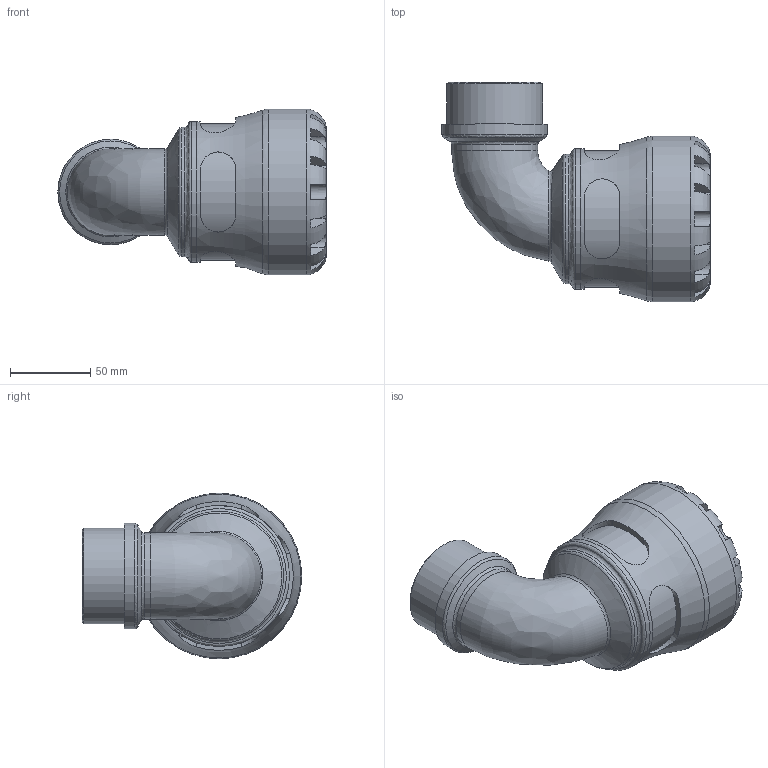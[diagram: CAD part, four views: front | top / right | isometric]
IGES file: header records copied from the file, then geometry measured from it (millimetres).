
Global section: file name: 107700063020_197700063020.ipt; native system: Autodesk Inventor 2015; preprocessor: unknown; author: KIM; date: 20170122.115518; units: millimetre
Bounding box: 166.79 x 136.5 x 103 mm (x, y, z)
Volume: 485716.1 mm3; surface area: 93242.7 mm2
Topology: 1 solids, 1 shells, 112 faces, 288 edges, 183 vertices
Faces by surface type: plane 60, revolution 28, cylinder 18, bspline 4, cone 2
Full cylindrical faces by diameter (mm): 53.653 x1, 59.614 x1, 65.575 x1, 80.34 x1, 87.55 x1, 103 x1
